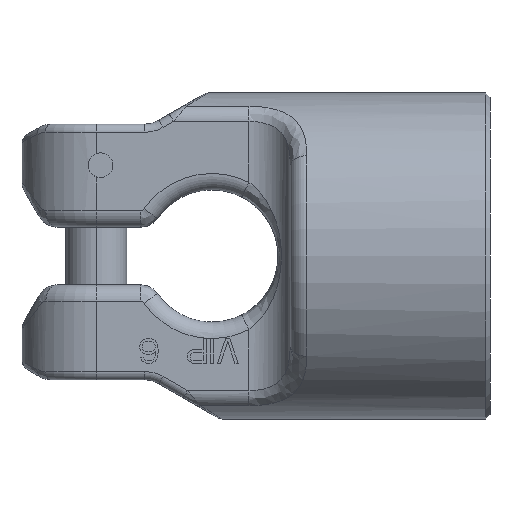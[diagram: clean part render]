
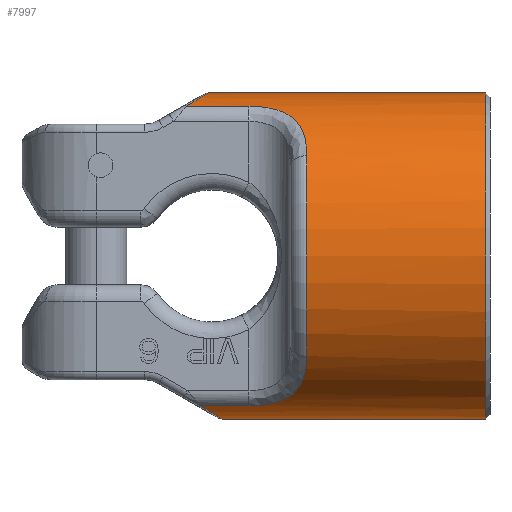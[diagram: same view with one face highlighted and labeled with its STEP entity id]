
A CAD part, front view. The second image highlights one B-rep face of the part: STEP entity #7997.
In plain terms, the highlighted cylindrical face has radius 19.75 mm (diameter 39.5 mm), a partial arc.
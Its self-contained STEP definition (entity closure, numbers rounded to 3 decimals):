
#830=CARTESIAN_POINT('',(24.268,0.,
-19.75));
#838=DIRECTION('',(1.,0.,0.));
#839=VECTOR('',#838,31.932);
#840=CARTESIAN_POINT('',(24.268,0.,
-19.75));
#841=LINE('',#840,#839);
#1273=CARTESIAN_POINT('',(56.2,0.,0.));
#1274=DIRECTION('',(1.,0.,0.));
#1275=DIRECTION('',(0.,0.,1.));
#1276=AXIS2_PLACEMENT_3D('',#1273,#1274,#1275);
#1278=CARTESIAN_POINT('',(21.636,-7.789,
-18.149));
#1279=CARTESIAN_POINT('',(22.021,-7.243,
-18.384));
#1280=CARTESIAN_POINT('',(22.696,-6.151,
-18.794));
#1281=CARTESIAN_POINT('',(23.434,-4.546,
-19.243));
#1282=CARTESIAN_POINT('',(23.927,-2.989,
-19.543));
#1283=CARTESIAN_POINT('',(24.208,-1.481,
-19.713));
#1284=CARTESIAN_POINT('',(24.268,-0.489,
-19.75));
#1285=CARTESIAN_POINT('',(24.268,0.,
-19.75));
#1287=DIRECTION('',(-1.,0.,0.));
#1288=VECTOR('',#1287,5.864);
#1289=CARTESIAN_POINT('',(27.5,-7.789,
-18.149));
#1290=LINE('',#1289,#1288);
#1291=CARTESIAN_POINT('',(34.5,-15.577,-12.141));
#1292=CARTESIAN_POINT('',(34.5,-15.351,
-12.431));
#1293=CARTESIAN_POINT('',(34.483,-14.855,
-13.036));
#1294=CARTESIAN_POINT('',(34.366,-13.955,
-13.998));
#1295=CARTESIAN_POINT('',(34.102,-12.893,
-14.987));
#1296=CARTESIAN_POINT('',(33.595,-11.661,
-15.964));
#1297=CARTESIAN_POINT('',(32.853,-10.493,
-16.748));
#1298=CARTESIAN_POINT('',(31.963,-9.525,
-17.311));
#1299=CARTESIAN_POINT('',(30.951,-8.756,
-17.708));
#1300=CARTESIAN_POINT('',(29.85,-8.2,
-17.97));
#1301=CARTESIAN_POINT('',(28.679,-7.862,
-18.118));
#1302=CARTESIAN_POINT('',(27.896,-7.789,
-18.149));
#1303=CARTESIAN_POINT('',(27.5,-7.789,
-18.149));
#1305=CARTESIAN_POINT('',(34.5,0.,0.));
#1306=DIRECTION('',(1.,0.,0.));
#1307=DIRECTION('',(0.,-0.789,0.615));
#1308=AXIS2_PLACEMENT_3D('',#1305,#1306,#1307);
#1310=CARTESIAN_POINT('',(27.5,-7.789,18.149));
#1311=CARTESIAN_POINT('',(27.896,-7.789,18.149));
#1312=CARTESIAN_POINT('',(28.678,-7.862,18.118));
#1313=CARTESIAN_POINT('',(29.849,-8.199,17.97));
#1314=CARTESIAN_POINT('',(30.95,-8.755,17.708));
#1315=CARTESIAN_POINT('',(31.961,-9.524,17.311));
#1316=CARTESIAN_POINT('',(32.851,-10.491,16.749));
#1317=CARTESIAN_POINT('',(33.594,-11.658,15.967));
#1318=CARTESIAN_POINT('',(34.101,-12.89,14.99));
#1319=CARTESIAN_POINT('',(34.365,-13.954,13.999));
#1320=CARTESIAN_POINT('',(34.483,-14.855,13.035));
#1321=CARTESIAN_POINT('',(34.5,-15.352,12.431));
#1322=CARTESIAN_POINT('',(34.5,-15.577,12.141));
#1324=DIRECTION('',(1.,0.,0.));
#1325=VECTOR('',#1324,7.562);
#1326=CARTESIAN_POINT('',(19.938,-7.789,18.149));
#1327=LINE('',#1326,#1325);
#1328=CARTESIAN_POINT('',(22.571,0.,
19.75));
#1329=CARTESIAN_POINT('',(22.571,-0.494,
19.75));
#1330=CARTESIAN_POINT('',(22.509,-1.493,19.713));
#1331=CARTESIAN_POINT('',(22.226,-3.006,19.54));
#1332=CARTESIAN_POINT('',(21.731,-4.558,19.24));
#1333=CARTESIAN_POINT('',(20.994,-6.157,18.791));
#1334=CARTESIAN_POINT('',(20.322,-7.245,18.383));
#1335=CARTESIAN_POINT('',(19.938,-7.789,18.149));
#1337=DIRECTION('',(1.,0.,0.));
#1338=VECTOR('',#1337,33.629);
#1339=CARTESIAN_POINT('',(22.571,0.,
19.75));
#1340=LINE('',#1339,#1338);
#2605=CARTESIAN_POINT('',(21.636,-7.789,
-18.149));
#5445=VERTEX_POINT('',#1291);
#5446=VERTEX_POINT('',#1303);
#5457=VERTEX_POINT('',#1310);
#5458=VERTEX_POINT('',#1322);
#5976=VERTEX_POINT('',#830);
#5991=VERTEX_POINT('',#2605);
#5994=VERTEX_POINT('',#1328);
#5995=VERTEX_POINT('',#1335);
#6624=CARTESIAN_POINT('',(56.2,0.,-19.75));
#6625=CARTESIAN_POINT('',(56.2,0.,19.75));
#6626=VERTEX_POINT('',#6624);
#6627=VERTEX_POINT('',#6625);
#7973=CARTESIAN_POINT('',(0.,0.,0.));
#7974=DIRECTION('',(1.,0.,0.));
#7975=DIRECTION('',(0.,0.,-1.));
#7976=AXIS2_PLACEMENT_3D('',#7973,#7974,#7975);
#7977=CYLINDRICAL_SURFACE('',#7976,19.75);
#7978=ORIENTED_EDGE('',*,*,#6648,.T.);
#7979=ORIENTED_EDGE('',*,*,#6690,.F.);
#7981=ORIENTED_EDGE('',*,*,#7980,.F.);
#7983=ORIENTED_EDGE('',*,*,#7982,.F.);
#7985=ORIENTED_EDGE('',*,*,#7984,.F.);
#7987=ORIENTED_EDGE('',*,*,#7986,.F.);
#7989=ORIENTED_EDGE('',*,*,#7988,.F.);
#7991=ORIENTED_EDGE('',*,*,#7990,.F.);
#7993=ORIENTED_EDGE('',*,*,#7992,.F.);
#7994=ORIENTED_EDGE('',*,*,#6674,.T.);
#7995=EDGE_LOOP('',(#7978,#7979,#7981,#7983,#7985,#7987,#7989,#7991,#7993,
#7994));
#7996=FACE_OUTER_BOUND('',#7995,.F.);
#7997=ADVANCED_FACE('',(#7996),#7977,.T.);
#1277=CIRCLE('',#1276,19.75);
#1286=B_SPLINE_CURVE_WITH_KNOTS('',3,(#1278,#1279,#1280,#1281,#1282,#1283,#1284,
#1285),.UNSPECIFIED.,.F.,.F.,(4,1,1,1,1,4),(0.,0.2,0.4,0.6,0.8,1.),
.UNSPECIFIED.);
#1304=B_SPLINE_CURVE_WITH_KNOTS('',3,(#1291,#1292,#1293,#1294,#1295,#1296,#1297,
#1298,#1299,#1300,#1301,#1302,#1303),.UNSPECIFIED.,.F.,.F.,(4,1,1,1,1,1,1,1,1,1,
4),(0.,0.1,0.2,0.3,0.4,0.5,0.6,0.7,0.8,0.9,1.),
.UNSPECIFIED.);
#1309=CIRCLE('',#1308,19.75);
#1323=B_SPLINE_CURVE_WITH_KNOTS('',3,(#1310,#1311,#1312,#1313,#1314,#1315,#1316,
#1317,#1318,#1319,#1320,#1321,#1322),.UNSPECIFIED.,.F.,.F.,(4,1,1,1,1,1,1,1,1,1,
4),(0.,0.1,0.2,0.3,0.4,0.5,0.6,0.7,0.8,0.9,1.),
.UNSPECIFIED.);
#1336=B_SPLINE_CURVE_WITH_KNOTS('',3,(#1328,#1329,#1330,#1331,#1332,#1333,#1334,
#1335),.UNSPECIFIED.,.F.,.F.,(4,1,1,1,1,4),(0.,0.2,0.4,0.6,0.8,1.),
.UNSPECIFIED.);
#6648=EDGE_CURVE('',#6627,#6626,#1277,.T.);
#6674=EDGE_CURVE('',#5994,#6627,#1340,.T.);
#6690=EDGE_CURVE('',#5976,#6626,#841,.T.);
#7980=EDGE_CURVE('',#5991,#5976,#1286,.T.);
#7982=EDGE_CURVE('',#5446,#5991,#1290,.T.);
#7984=EDGE_CURVE('',#5445,#5446,#1304,.T.);
#7986=EDGE_CURVE('',#5458,#5445,#1309,.T.);
#7988=EDGE_CURVE('',#5457,#5458,#1323,.T.);
#7990=EDGE_CURVE('',#5995,#5457,#1327,.T.);
#7992=EDGE_CURVE('',#5994,#5995,#1336,.T.);
